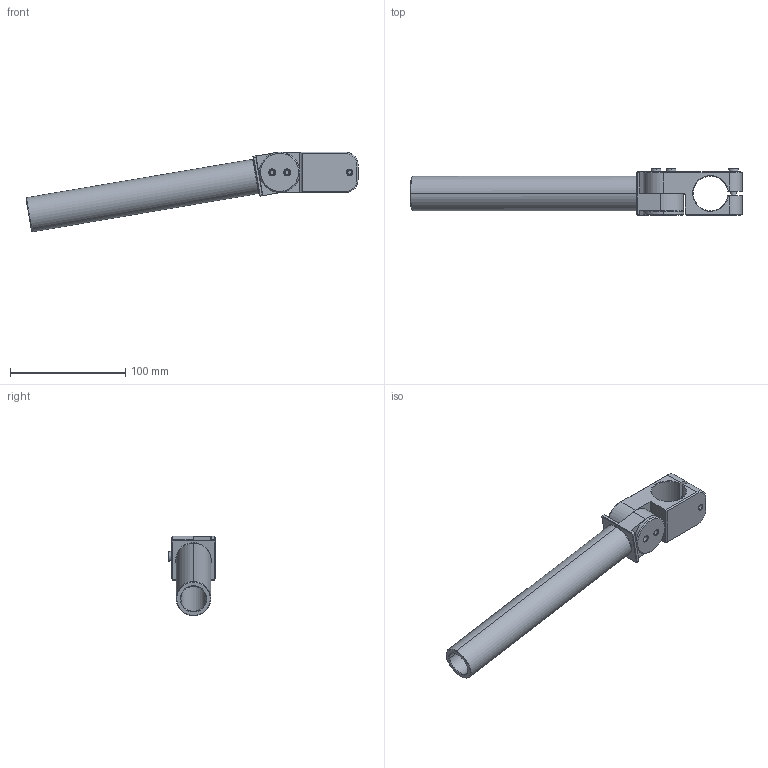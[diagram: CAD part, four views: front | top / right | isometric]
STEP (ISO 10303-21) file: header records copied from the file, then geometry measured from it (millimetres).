
FILE_DESCRIPTION (( 'STEP AP214' ), '1' );
FILE_NAME ('SEAH-3030L200.STEP', '2019-11-11T03:51:22', ( '微软用户' ), ( '微软中国' ), 'SwSTEP 2.0', 'SolidWorks 2016', '' );
FILE_SCHEMA (( 'AUTOMOTIVE_DESIGN' ));
Length unit declared in the file: millimetre
Products named in the file (1): SEAH-3030L200
Bounding box: 287.82 x 40.6 x 69.03 mm (x, y, z)
Volume: 151329.5 mm3; surface area: 60107.8 mm2
Topology: 9 solids, 9 shells, 778 faces, 2174 edges, 1418 vertices
Faces by surface type: plane 651, cylinder 64, cone 53, bspline 10
Entity records: 34766 total; most frequent: CARTESIAN_POINT 5478, DIRECTION 4424, ORIENTED_EDGE 4344, EDGE_CURVE 2172, AXIS2_PLACEMENT_3D 1507, VERTEX_POINT 1418, LINE 1410, VECTOR 1410
